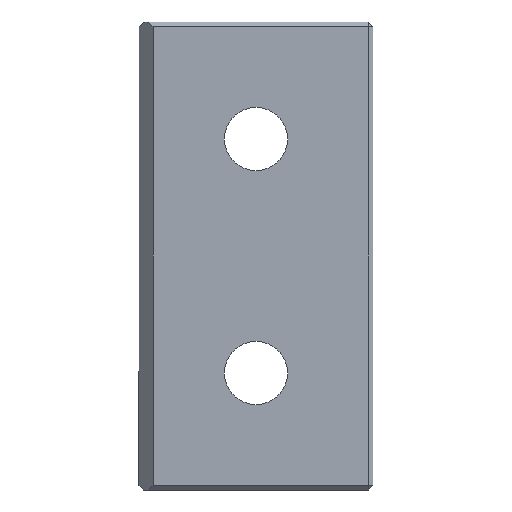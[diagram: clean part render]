
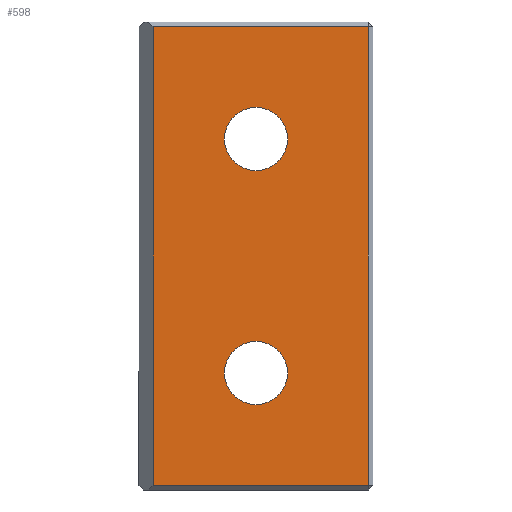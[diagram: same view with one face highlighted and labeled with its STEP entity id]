
A CAD part, front view. The second image highlights one B-rep face of the part: STEP entity #598.
In plain terms, the highlighted planar face has unit normal (0, -1, 0).
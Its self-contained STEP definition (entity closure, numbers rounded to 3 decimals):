
#21=FACE_BOUND('',#117,.T.);
#22=FACE_BOUND('',#118,.T.);
#47=PLANE('',#665);
#79=FACE_OUTER_BOUND('',#116,.T.);
#116=EDGE_LOOP('',(#501,#502,#503,#504));
#117=EDGE_LOOP('',(#505));
#118=EDGE_LOOP('',(#506));
#139=LINE('',#884,#198);
#145=LINE('',#895,#204);
#148=LINE('',#901,#207);
#180=LINE('',#971,#239);
#198=VECTOR('',#720,10.);
#204=VECTOR('',#730,10.);
#207=VECTOR('',#735,10.);
#239=VECTOR('',#807,10.);
#257=CIRCLE('',#666,6.75);
#258=CIRCLE('',#667,6.75);
#275=VERTEX_POINT('',#877);
#277=VERTEX_POINT('',#882);
#280=VERTEX_POINT('',#890);
#281=VERTEX_POINT('',#897);
#301=VERTEX_POINT('',#978);
#302=VERTEX_POINT('',#980);
#325=EDGE_CURVE('',#277,#275,#139,.T.);
#331=EDGE_CURVE('',#275,#280,#145,.T.);
#334=EDGE_CURVE('',#280,#281,#148,.T.);
#370=EDGE_CURVE('',#281,#277,#180,.T.);
#374=EDGE_CURVE('',#301,#301,#257,.T.);
#375=EDGE_CURVE('',#302,#302,#258,.T.);
#501=ORIENTED_EDGE('',*,*,#325,.F.);
#502=ORIENTED_EDGE('',*,*,#370,.F.);
#503=ORIENTED_EDGE('',*,*,#334,.F.);
#504=ORIENTED_EDGE('',*,*,#331,.F.);
#505=ORIENTED_EDGE('',*,*,#374,.T.);
#506=ORIENTED_EDGE('',*,*,#375,.T.);
#598=ADVANCED_FACE('',(#79,#21,#22),#47,.F.);
#665=AXIS2_PLACEMENT_3D('',#977,#815,#816);
#666=AXIS2_PLACEMENT_3D('',#979,#817,#818);
#667=AXIS2_PLACEMENT_3D('',#981,#819,#820);
#720=DIRECTION('',(1.,0.,0.));
#730=DIRECTION('',(0.,0.,-1.));
#735=DIRECTION('',(-1.,0.,0.));
#807=DIRECTION('',(0.,0.,1.));
#815=DIRECTION('center_axis',(0.,1.,0.));
#816=DIRECTION('ref_axis',(0.,0.,1.));
#817=DIRECTION('center_axis',(0.,1.,0.));
#818=DIRECTION('ref_axis',(1.,0.,0.));
#819=DIRECTION('center_axis',(0.,1.,0.));
#820=DIRECTION('ref_axis',(1.,0.,0.));
#877=CARTESIAN_POINT('',(49.,0.,99.));
#882=CARTESIAN_POINT('',(3.,0.,99.));
#884=CARTESIAN_POINT('',(12.5,0.,99.));
#890=CARTESIAN_POINT('',(49.,0.,1.));
#895=CARTESIAN_POINT('',(49.,0.,75.));
#897=CARTESIAN_POINT('',(3.,0.,1.));
#901=CARTESIAN_POINT('',(37.5,0.,1.));
#971=CARTESIAN_POINT('',(3.,0.,25.));
#977=CARTESIAN_POINT('Origin',(25.,0.,50.));
#978=CARTESIAN_POINT('',(18.25,0.,25.));
#979=CARTESIAN_POINT('Origin',(25.,0.,25.));
#980=CARTESIAN_POINT('',(18.25,0.,75.));
#981=CARTESIAN_POINT('Origin',(25.,0.,75.));
